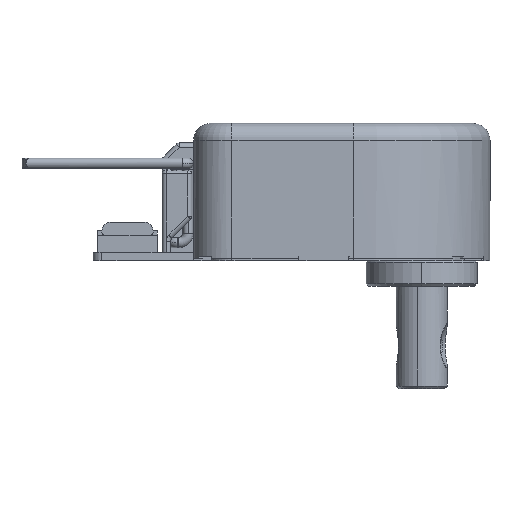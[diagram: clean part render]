
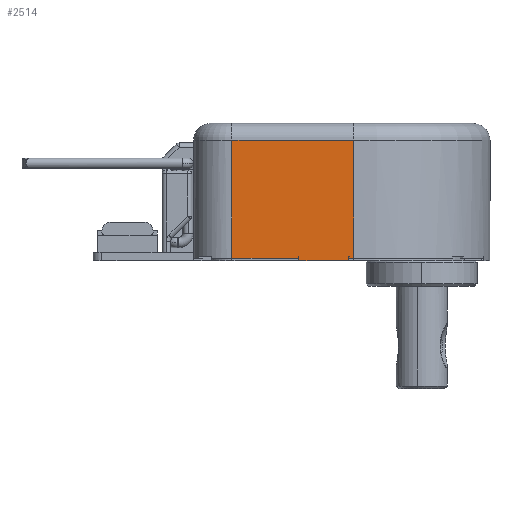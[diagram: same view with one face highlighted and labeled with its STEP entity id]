
A CAD part, left-side view. The second image highlights one B-rep face of the part: STEP entity #2514.
In plain terms, the highlighted planar face has unit normal (-1, 0, 0).
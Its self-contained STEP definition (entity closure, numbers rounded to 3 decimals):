
#277 = CARTESIAN_POINT ( 'NONE',  ( -16., 14.4, 1. ) ) ;
#429 = DIRECTION ( 'NONE',  ( 0., 0., -1. ) ) ;
#483 = CARTESIAN_POINT ( 'NONE',  ( -16., 8.6, 0. ) ) ;
#564 = VECTOR ( 'NONE', #9102, 1000. ) ;
#848 = DIRECTION ( 'NONE',  ( 0., 0., 1. ) ) ;
#1202 = EDGE_CURVE ( 'NONE', #5753, #13321, #13509, .T. ) ;
#1252 = CARTESIAN_POINT ( 'NONE',  ( -16., 14.4, 0. ) ) ;
#1266 = VERTEX_POINT ( 'NONE', #9595 ) ;
#1501 = EDGE_CURVE ( 'NONE', #13727, #12895, #11171, .T. ) ;
#1579 = LINE ( 'NONE', #5989, #2143 ) ;
#1731 = AXIS2_PLACEMENT_3D ( 'NONE', #3015, #8452, #848 ) ;
#1879 = CARTESIAN_POINT ( 'NONE',  ( -16., 8.5, 15.1 ) ) ;
#1915 = CARTESIAN_POINT ( 'NONE',  ( -16., 8.5, 0.28 ) ) ;
#2055 = CARTESIAN_POINT ( 'NONE',  ( -16., 14.5, 0.5 ) ) ;
#2143 = VECTOR ( 'NONE', #2799, 1000. ) ;
#2206 = DIRECTION ( 'NONE',  ( 0., -1., 0. ) ) ;
#2488 = VERTEX_POINT ( 'NONE', #9448 ) ;
#2514 = ADVANCED_FACE ( 'NONE', ( #8524 ), #11699, .T. ) ;
#2547 = DIRECTION ( 'NONE',  ( 0., 0., 1. ) ) ;
#2799 = DIRECTION ( 'NONE',  ( 0., 1., 0. ) ) ;
#2896 = VECTOR ( 'NONE', #12988, 1000. ) ;
#3015 = CARTESIAN_POINT ( 'NONE',  ( -16., 14.4, 1. ) ) ;
#3307 = VECTOR ( 'NONE', #13593, 1000. ) ;
#3312 = DIRECTION ( 'NONE',  ( 0., -1., 0. ) ) ;
#3392 = CARTESIAN_POINT ( 'NONE',  ( -16., 26.75, 0.28 ) ) ;
#3996 = ORIENTED_EDGE ( 'NONE', *, *, #11143, .T. ) ;
#4414 = ORIENTED_EDGE ( 'NONE', *, *, #5536, .F. ) ;
#4577 = EDGE_CURVE ( 'NONE', #13727, #10575, #8486, .T. ) ;
#4693 = CARTESIAN_POINT ( 'NONE',  ( -16., 22.25, 14.1 ) ) ;
#4935 = ORIENTED_EDGE ( 'NONE', *, *, #1501, .T. ) ;
#5447 = EDGE_CURVE ( 'NONE', #13605, #7148, #12030, .T. ) ;
#5463 = CARTESIAN_POINT ( 'NONE',  ( -16., 14.4, 0. ) ) ;
#5511 = VECTOR ( 'NONE', #2206, 1000. ) ;
#5536 = EDGE_CURVE ( 'NONE', #13321, #2488, #10236, .T. ) ;
#5560 = CARTESIAN_POINT ( 'NONE',  ( -16., 22.25, 15.1 ) ) ;
#5692 = ORIENTED_EDGE ( 'NONE', *, *, #7130, .T. ) ;
#5753 = VERTEX_POINT ( 'NONE', #8217 ) ;
#5812 = CARTESIAN_POINT ( 'NONE',  ( -16., 14.5, 15.1 ) ) ;
#5937 = VECTOR ( 'NONE', #2547, 1000. ) ;
#5989 = CARTESIAN_POINT ( 'NONE',  ( -16., 26.75, 14.1 ) ) ;
#6307 = ORIENTED_EDGE ( 'NONE', *, *, #8539, .T. ) ;
#6526 = EDGE_LOOP ( 'NONE', ( #13574, #12072, #10375, #4935, #5692, #9069, #6307, #3996, #4414, #12213, #6711, #11688 ) ) ;
#6711 = ORIENTED_EDGE ( 'NONE', *, *, #11255, .T. ) ;
#6785 = VERTEX_POINT ( 'NONE', #7194 ) ;
#6861 = CARTESIAN_POINT ( 'NONE',  ( -16., 14.5, 0.5 ) ) ;
#6931 = VECTOR ( 'NONE', #10330, 1000. ) ;
#7130 = EDGE_CURVE ( 'NONE', #12895, #7382, #8056, .T. ) ;
#7148 = VERTEX_POINT ( 'NONE', #1252 ) ;
#7194 = CARTESIAN_POINT ( 'NONE',  ( -16., 8.6, 0.5 ) ) ;
#7272 = VECTOR ( 'NONE', #429, 1000. ) ;
#7382 = VERTEX_POINT ( 'NONE', #12577 ) ;
#7813 = LINE ( 'NONE', #277, #564 ) ;
#7956 = LINE ( 'NONE', #5560, #3307 ) ;
#7996 = VECTOR ( 'NONE', #13569, 1000. ) ;
#8030 = LINE ( 'NONE', #3392, #12333 ) ;
#8056 = LINE ( 'NONE', #11449, #5937 ) ;
#8217 = CARTESIAN_POINT ( 'NONE',  ( -16., 14.4, 0.5 ) ) ;
#8452 = DIRECTION ( 'NONE',  ( -1., 0., 0. ) ) ;
#8486 = LINE ( 'NONE', #1879, #13709 ) ;
#8524 = FACE_OUTER_BOUND ( 'NONE', #6526, .T. ) ;
#8539 = EDGE_CURVE ( 'NONE', #14218, #1266, #7956, .T. ) ;
#8729 = EDGE_CURVE ( 'NONE', #6785, #13605, #13655, .T. ) ;
#9069 = ORIENTED_EDGE ( 'NONE', *, *, #11992, .T. ) ;
#9102 = DIRECTION ( 'NONE',  ( 0., 0., -1. ) ) ;
#9448 = CARTESIAN_POINT ( 'NONE',  ( -16., 14.5, 0.28 ) ) ;
#9595 = CARTESIAN_POINT ( 'NONE',  ( -16., 22.25, 0.28 ) ) ;
#9678 = CARTESIAN_POINT ( 'NONE',  ( -16., 14.5, 0.5 ) ) ;
#10236 = LINE ( 'NONE', #5812, #7996 ) ;
#10330 = DIRECTION ( 'NONE',  ( 0., 1., 0. ) ) ;
#10375 = ORIENTED_EDGE ( 'NONE', *, *, #4577, .F. ) ;
#10575 = VERTEX_POINT ( 'NONE', #13190 ) ;
#10941 = DIRECTION ( 'NONE',  ( 0., 1., 0. ) ) ;
#11143 = EDGE_CURVE ( 'NONE', #1266, #2488, #8030, .T. ) ;
#11171 = LINE ( 'NONE', #12186, #5511 ) ;
#11255 = EDGE_CURVE ( 'NONE', #5753, #7148, #7813, .T. ) ;
#11449 = CARTESIAN_POINT ( 'NONE',  ( -16., 8., 15.1 ) ) ;
#11688 = ORIENTED_EDGE ( 'NONE', *, *, #5447, .F. ) ;
#11699 = PLANE ( 'NONE',  #1731 ) ;
#11862 = DIRECTION ( 'NONE',  ( 0., 0., 1. ) ) ;
#11992 = EDGE_CURVE ( 'NONE', #7382, #14218, #1579, .T. ) ;
#12030 = LINE ( 'NONE', #5463, #2896 ) ;
#12054 = VECTOR ( 'NONE', #10941, 1000. ) ;
#12072 = ORIENTED_EDGE ( 'NONE', *, *, #13623, .F. ) ;
#12186 = CARTESIAN_POINT ( 'NONE',  ( -16., 26.75, 0.28 ) ) ;
#12213 = ORIENTED_EDGE ( 'NONE', *, *, #1202, .F. ) ;
#12333 = VECTOR ( 'NONE', #3312, 1000. ) ;
#12577 = CARTESIAN_POINT ( 'NONE',  ( -16., 8., 14.1 ) ) ;
#12713 = CARTESIAN_POINT ( 'NONE',  ( -16., 8.6, 1. ) ) ;
#12895 = VERTEX_POINT ( 'NONE', #14096 ) ;
#12988 = DIRECTION ( 'NONE',  ( 0., 1., 0. ) ) ;
#13190 = CARTESIAN_POINT ( 'NONE',  ( -16., 8.5, 0.5 ) ) ;
#13321 = VERTEX_POINT ( 'NONE', #9678 ) ;
#13509 = LINE ( 'NONE', #6861, #6931 ) ;
#13569 = DIRECTION ( 'NONE',  ( 0., 0., -1. ) ) ;
#13574 = ORIENTED_EDGE ( 'NONE', *, *, #8729, .F. ) ;
#13593 = DIRECTION ( 'NONE',  ( 0., 0., -1. ) ) ;
#13605 = VERTEX_POINT ( 'NONE', #483 ) ;
#13623 = EDGE_CURVE ( 'NONE', #10575, #6785, #14000, .T. ) ;
#13655 = LINE ( 'NONE', #12713, #7272 ) ;
#13709 = VECTOR ( 'NONE', #11862, 1000. ) ;
#13727 = VERTEX_POINT ( 'NONE', #1915 ) ;
#14000 = LINE ( 'NONE', #2055, #12054 ) ;
#14096 = CARTESIAN_POINT ( 'NONE',  ( -16., 8., 0.28 ) ) ;
#14218 = VERTEX_POINT ( 'NONE', #4693 ) ;
